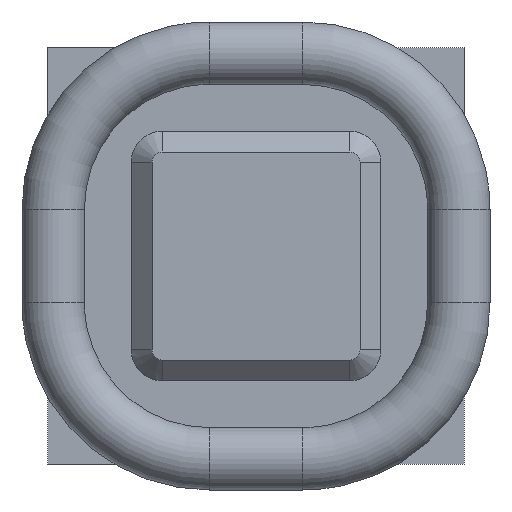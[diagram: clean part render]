
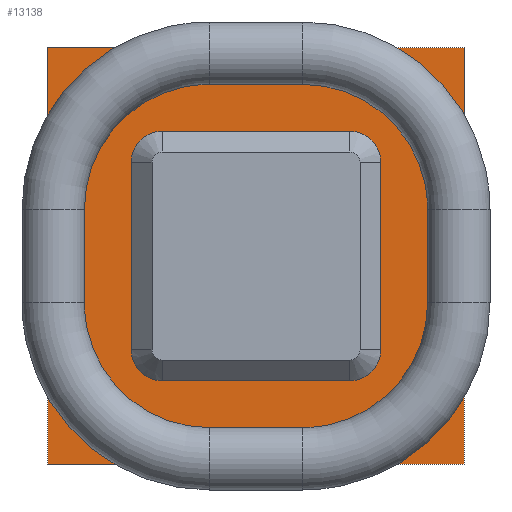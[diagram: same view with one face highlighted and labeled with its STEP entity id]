
A CAD part, front view. The second image highlights one B-rep face of the part: STEP entity #13138.
In plain terms, the highlighted planar face has unit normal (0, -1, 0).
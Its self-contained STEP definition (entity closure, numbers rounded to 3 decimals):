
#2058=LINE('',#23154,#3199);
#2061=LINE('',#23165,#3202);
#2065=LINE('',#23177,#3206);
#2069=LINE('',#23189,#3210);
#2076=LINE('',#23206,#3217);
#2077=LINE('',#23208,#3218);
#2078=LINE('',#23210,#3219);
#2079=LINE('',#23211,#3220);
#3199=VECTOR('',#15428,36.);
#3202=VECTOR('',#15439,36.);
#3206=VECTOR('',#15451,36.);
#3210=VECTOR('',#15463,36.);
#3217=VECTOR('',#15486,80.);
#3218=VECTOR('',#15487,80.);
#3219=VECTOR('',#15488,80.);
#3220=VECTOR('',#15489,80.);
#3560=PLANE('',#13549);
#3667=FACE_BOUND('',#5105,.T.);
#4342=FACE_OUTER_BOUND('',#5104,.T.);
#5104=EDGE_LOOP('',(#11713,#11714,#11715,#11716));
#5105=EDGE_LOOP('',(#11717,#11718,#11719,#11720,#11721,#11722,#11723,#11724));
#5154=CIRCLE('',#13531,6.);
#5156=CIRCLE('',#13535,6.);
#5158=CIRCLE('',#13539,6.);
#5160=CIRCLE('',#13543,6.);
#6348=VERTEX_POINT('',#23147);
#6351=VERTEX_POINT('',#23152);
#6353=VERTEX_POINT('',#23157);
#6355=VERTEX_POINT('',#23163);
#6357=VERTEX_POINT('',#23169);
#6359=VERTEX_POINT('',#23175);
#6361=VERTEX_POINT('',#23181);
#6363=VERTEX_POINT('',#23187);
#6364=VERTEX_POINT('',#23204);
#6365=VERTEX_POINT('',#23205);
#6366=VERTEX_POINT('',#23207);
#6367=VERTEX_POINT('',#23209);
#8130=EDGE_CURVE('',#6351,#6348,#2058,.T.);
#8132=EDGE_CURVE('',#6353,#6351,#5154,.T.);
#8135=EDGE_CURVE('',#6355,#6353,#2061,.T.);
#8138=EDGE_CURVE('',#6357,#6355,#5156,.T.);
#8141=EDGE_CURVE('',#6359,#6357,#2065,.T.);
#8144=EDGE_CURVE('',#6361,#6359,#5158,.T.);
#8147=EDGE_CURVE('',#6363,#6361,#2069,.T.);
#8149=EDGE_CURVE('',#6348,#6363,#5160,.T.);
#8156=EDGE_CURVE('',#6364,#6365,#2076,.T.);
#8157=EDGE_CURVE('',#6366,#6364,#2077,.T.);
#8158=EDGE_CURVE('',#6367,#6366,#2078,.T.);
#8159=EDGE_CURVE('',#6365,#6367,#2079,.T.);
#11713=ORIENTED_EDGE('',*,*,#8156,.F.);
#11714=ORIENTED_EDGE('',*,*,#8157,.F.);
#11715=ORIENTED_EDGE('',*,*,#8158,.F.);
#11716=ORIENTED_EDGE('',*,*,#8159,.F.);
#11717=ORIENTED_EDGE('',*,*,#8130,.F.);
#11718=ORIENTED_EDGE('',*,*,#8132,.F.);
#11719=ORIENTED_EDGE('',*,*,#8135,.F.);
#11720=ORIENTED_EDGE('',*,*,#8138,.F.);
#11721=ORIENTED_EDGE('',*,*,#8141,.F.);
#11722=ORIENTED_EDGE('',*,*,#8144,.F.);
#11723=ORIENTED_EDGE('',*,*,#8147,.F.);
#11724=ORIENTED_EDGE('',*,*,#8149,.F.);
#13138=ADVANCED_FACE('',(#4342,#3667),#3560,.F.);
#13531=AXIS2_PLACEMENT_3D('',#23159,#15432,#15433);
#13535=AXIS2_PLACEMENT_3D('',#23171,#15444,#15445);
#13539=AXIS2_PLACEMENT_3D('',#23183,#15456,#15457);
#13543=AXIS2_PLACEMENT_3D('',#23192,#15467,#15468);
#13549=AXIS2_PLACEMENT_3D('',#23203,#15484,#15485);
#15428=DIRECTION('',(-1.,0.,0.));
#15432=DIRECTION('center_axis',(0.,-1.,0.));
#15433=DIRECTION('ref_axis',(1.,0.,0.));
#15439=DIRECTION('',(0.,0.,1.));
#15444=DIRECTION('center_axis',(0.,-1.,0.));
#15445=DIRECTION('ref_axis',(0.,0.,-1.));
#15451=DIRECTION('',(1.,0.,0.));
#15456=DIRECTION('center_axis',(0.,-1.,0.));
#15457=DIRECTION('ref_axis',(-1.,0.,0.));
#15463=DIRECTION('',(0.,0.,-1.));
#15467=DIRECTION('center_axis',(0.,-1.,0.));
#15468=DIRECTION('ref_axis',(0.,0.,1.));
#15484=DIRECTION('center_axis',(0.,1.,0.));
#15485=DIRECTION('ref_axis',(0.,0.,1.));
#15486=DIRECTION('',(-1.,0.,0.));
#15487=DIRECTION('',(0.,0.,-1.));
#15488=DIRECTION('',(1.,0.,0.));
#15489=DIRECTION('',(0.,0.,1.));
#23147=CARTESIAN_POINT('',(-18.,0.,24.));
#23152=CARTESIAN_POINT('',(18.,0.,24.));
#23154=CARTESIAN_POINT('',(-9.,0.,24.));
#23157=CARTESIAN_POINT('',(24.,0.,18.));
#23159=CARTESIAN_POINT('Origin',(18.,0.,18.));
#23163=CARTESIAN_POINT('',(24.,0.,-18.));
#23165=CARTESIAN_POINT('',(24.,0.,9.));
#23169=CARTESIAN_POINT('',(18.,0.,-24.));
#23171=CARTESIAN_POINT('Origin',(18.,0.,-18.));
#23175=CARTESIAN_POINT('',(-18.,0.,-24.));
#23177=CARTESIAN_POINT('',(9.,0.,-24.));
#23181=CARTESIAN_POINT('',(-24.,0.,-18.));
#23183=CARTESIAN_POINT('Origin',(-18.,0.,-18.));
#23187=CARTESIAN_POINT('',(-24.,0.,18.));
#23189=CARTESIAN_POINT('',(-24.,0.,-9.));
#23192=CARTESIAN_POINT('Origin',(-18.,0.,18.));
#23203=CARTESIAN_POINT('Origin',(0.,0.,0.));
#23204=CARTESIAN_POINT('',(40.,0.,-40.));
#23205=CARTESIAN_POINT('',(-40.,0.,-40.));
#23206=CARTESIAN_POINT('',(40.,0.,-40.));
#23207=CARTESIAN_POINT('',(40.,0.,40.));
#23208=CARTESIAN_POINT('',(40.,0.,40.));
#23209=CARTESIAN_POINT('',(-40.,0.,40.));
#23210=CARTESIAN_POINT('',(-40.,0.,40.));
#23211=CARTESIAN_POINT('',(-40.,0.,-40.));
